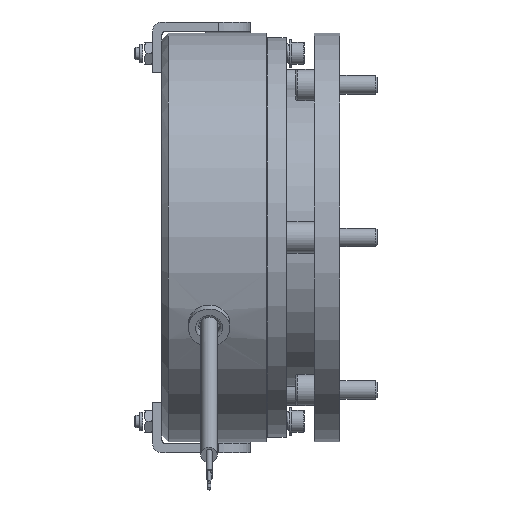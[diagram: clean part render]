
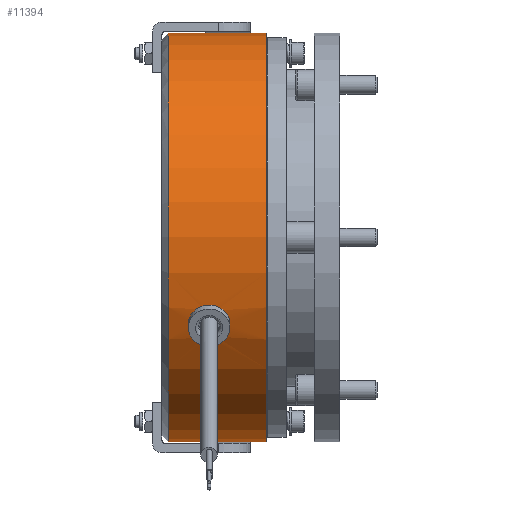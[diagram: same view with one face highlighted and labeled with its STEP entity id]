
A CAD part, front view. The second image highlights one B-rep face of the part: STEP entity #11394.
In plain terms, the highlighted cylindrical face has radius 65 mm (diameter 130 mm), a full revolution.
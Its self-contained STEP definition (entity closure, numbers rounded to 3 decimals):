
#298=B_SPLINE_CURVE_WITH_KNOTS('',3,(#18112,#18113,#18114,#18115,#18116,
#18117,#18118,#18119,#18120,#18121,#18122,#18123,#18124,#18125,#18126,#18127,
#18128,#18129,#18130),.UNSPECIFIED.,.F.,.F.,(4,2,2,2,3,2,2,2,4),(2.301,
2.493,2.685,2.877,3.068,3.26,
3.451,3.643,3.836),.UNSPECIFIED.);
#299=B_SPLINE_CURVE_WITH_KNOTS('',3,(#18132,#18133,#18134,#18135,#18136,
#18137,#18138,#18139,#18140,#18141,#18142,#18143,#18144,#18145,#18146,#18147,
#18148,#18149),.UNSPECIFIED.,.F.,.F.,(4,2,2,2,2,2,2,2,4),(0.767,
0.959,1.151,1.343,1.534,1.726,
1.918,2.109,2.301),.UNSPECIFIED.);
#697=CYLINDRICAL_SURFACE('',#12582,65.);
#814=FACE_BOUND('',#2651,.T.);
#1055=CIRCLE('',#11966,65.);
#1056=CIRCLE('',#11967,65.);
#1385=CIRCLE('',#12583,65.);
#1386=CIRCLE('',#12584,65.);
#1974=FACE_OUTER_BOUND('',#2650,.T.);
#2650=EDGE_LOOP('',(#9623,#9624,#9625,#9626,#9627,#9628));
#2651=EDGE_LOOP('',(#9629,#9630,#9631,#9632,#9633,#9634));
#3355=LINE('',#21517,#3937);
#3356=LINE('',#21521,#3938);
#3357=LINE('',#21522,#3939);
#3937=VECTOR('',#15374,65.);
#3938=VECTOR('',#15379,10.);
#3939=VECTOR('',#15380,10.);
#4495=VERTEX_POINT('',#17985);
#4496=VERTEX_POINT('',#17986);
#4515=VERTEX_POINT('',#18103);
#4516=VERTEX_POINT('',#18104);
#4517=VERTEX_POINT('',#18106);
#4518=VERTEX_POINT('',#18108);
#5025=VERTEX_POINT('',#21516);
#5026=VERTEX_POINT('',#21518);
#5817=EDGE_CURVE('',#4495,#4496,#1055,.T.);
#5818=EDGE_CURVE('',#4496,#4495,#1056,.T.);
#5843=EDGE_CURVE('',#4515,#4518,#298,.T.);
#5844=EDGE_CURVE('',#4518,#4515,#299,.T.);
#6595=EDGE_CURVE('',#4496,#5025,#3355,.T.);
#6596=EDGE_CURVE('',#5026,#5025,#1385,.T.);
#6597=EDGE_CURVE('',#5025,#5026,#1386,.T.);
#6598=EDGE_CURVE('',#4515,#4516,#3356,.T.);
#6599=EDGE_CURVE('',#4517,#4518,#3357,.T.);
#9623=ORIENTED_EDGE('',*,*,#5817,.F.);
#9624=ORIENTED_EDGE('',*,*,#5818,.F.);
#9625=ORIENTED_EDGE('',*,*,#6595,.T.);
#9626=ORIENTED_EDGE('',*,*,#6596,.F.);
#9627=ORIENTED_EDGE('',*,*,#6597,.F.);
#9628=ORIENTED_EDGE('',*,*,#6595,.F.);
#9629=ORIENTED_EDGE('',*,*,#6598,.T.);
#9630=ORIENTED_EDGE('',*,*,#6598,.F.);
#9631=ORIENTED_EDGE('',*,*,#5843,.T.);
#9632=ORIENTED_EDGE('',*,*,#6599,.F.);
#9633=ORIENTED_EDGE('',*,*,#6599,.T.);
#9634=ORIENTED_EDGE('',*,*,#5844,.T.);
#11394=ADVANCED_FACE('',(#1974,#814),#697,.T.);
#11966=AXIS2_PLACEMENT_3D('',#17987,#13896,#13897);
#11967=AXIS2_PLACEMENT_3D('',#17988,#13898,#13899);
#12582=AXIS2_PLACEMENT_3D('',#21515,#15372,#15373);
#12583=AXIS2_PLACEMENT_3D('',#21519,#15375,#15376);
#12584=AXIS2_PLACEMENT_3D('',#21520,#15377,#15378);
#13896=DIRECTION('center_axis',(1.,0.,0.));
#13897=DIRECTION('ref_axis',(0.,1.,0.));
#13898=DIRECTION('center_axis',(1.,0.,0.));
#13899=DIRECTION('ref_axis',(0.,1.,0.));
#15372=DIRECTION('center_axis',(1.,0.,0.));
#15373=DIRECTION('ref_axis',(0.,1.,0.));
#15374=DIRECTION('',(-1.,0.,0.));
#15375=DIRECTION('center_axis',(-1.,0.,0.));
#15376=DIRECTION('ref_axis',(0.,-1.,0.));
#15377=DIRECTION('center_axis',(-1.,0.,0.));
#15378=DIRECTION('ref_axis',(0.,-1.,0.));
#15379=DIRECTION('',(1.,0.,0.));
#15380=DIRECTION('',(1.,0.,0.));
#17985=CARTESIAN_POINT('',(0.,0.,-65.));
#17986=CARTESIAN_POINT('',(0.,-65.,0.));
#17987=CARTESIAN_POINT('Origin',(0.,0.,0.));
#17988=CARTESIAN_POINT('Origin',(0.,0.,0.));
#18103=CARTESIAN_POINT('',(-13.1,-58.91,-27.47));
#18104=CARTESIAN_POINT('',(-11.6,-58.91,-27.47));
#18106=CARTESIAN_POINT('',(-24.8,-58.91,-27.47));
#18108=CARTESIAN_POINT('',(-23.3,-58.91,-27.47));
#18112=CARTESIAN_POINT('Ctrl Pts',(-13.1,-58.91,-27.47));
#18113=CARTESIAN_POINT('Ctrl Pts',(-13.1,-58.64,-28.05));
#18114=CARTESIAN_POINT('Ctrl Pts',(-13.229,-58.342,
-28.663));
#18115=CARTESIAN_POINT('Ctrl Pts',(-13.751,-57.779,
-29.783));
#18116=CARTESIAN_POINT('Ctrl Pts',(-14.145,-57.513,
-30.289));
#18117=CARTESIAN_POINT('Ctrl Pts',(-15.052,-57.088,-31.084));
#18118=CARTESIAN_POINT('Ctrl Pts',(-15.625,-56.899,
-31.426));
#18119=CARTESIAN_POINT('Ctrl Pts',(-16.879,-56.647,
-31.878));
#18120=CARTESIAN_POINT('Ctrl Pts',(-17.561,-56.584,
-31.988));
#18121=CARTESIAN_POINT('Ctrl Pts',(-18.2,-56.584,-31.988));
#18122=CARTESIAN_POINT('Ctrl Pts',(-18.838,-56.584,
-31.988));
#18123=CARTESIAN_POINT('Ctrl Pts',(-19.519,-56.647,
-31.878));
#18124=CARTESIAN_POINT('Ctrl Pts',(-20.773,-56.898,
-31.427));
#18125=CARTESIAN_POINT('Ctrl Pts',(-21.346,-57.087,
-31.086));
#18126=CARTESIAN_POINT('Ctrl Pts',(-22.253,-57.512,
-30.292));
#18127=CARTESIAN_POINT('Ctrl Pts',(-22.647,-57.778,
-29.785));
#18128=CARTESIAN_POINT('Ctrl Pts',(-23.171,-58.342,
-28.665));
#18129=CARTESIAN_POINT('Ctrl Pts',(-23.3,-58.639,-28.05));
#18130=CARTESIAN_POINT('Ctrl Pts',(-23.3,-58.91,-27.47));
#18132=CARTESIAN_POINT('Ctrl Pts',(-23.3,-58.91,-27.47));
#18133=CARTESIAN_POINT('Ctrl Pts',(-23.3,-59.181,-26.89));
#18134=CARTESIAN_POINT('Ctrl Pts',(-23.171,-59.46,-26.267));
#18135=CARTESIAN_POINT('Ctrl Pts',(-22.647,-59.955,
-25.115));
#18136=CARTESIAN_POINT('Ctrl Pts',(-22.253,-60.173,
-24.586));
#18137=CARTESIAN_POINT('Ctrl Pts',(-21.346,-60.508,
-23.749));
#18138=CARTESIAN_POINT('Ctrl Pts',(-20.773,-60.648,
-23.386));
#18139=CARTESIAN_POINT('Ctrl Pts',(-19.519,-60.832,
-22.903));
#18140=CARTESIAN_POINT('Ctrl Pts',(-18.838,-60.876,
-22.784));
#18141=CARTESIAN_POINT('Ctrl Pts',(-17.561,-60.876,
-22.784));
#18142=CARTESIAN_POINT('Ctrl Pts',(-16.879,-60.832,-22.903));
#18143=CARTESIAN_POINT('Ctrl Pts',(-15.625,-60.647,
-23.387));
#18144=CARTESIAN_POINT('Ctrl Pts',(-15.052,-60.507,-23.751));
#18145=CARTESIAN_POINT('Ctrl Pts',(-14.145,-60.172,
-24.588));
#18146=CARTESIAN_POINT('Ctrl Pts',(-13.751,-59.954,
-25.117));
#18147=CARTESIAN_POINT('Ctrl Pts',(-13.229,-59.459,-26.268));
#18148=CARTESIAN_POINT('Ctrl Pts',(-13.1,-59.18,-26.891));
#18149=CARTESIAN_POINT('Ctrl Pts',(-13.1,-58.91,-27.47));
#21515=CARTESIAN_POINT('Origin',(-16.6,0.,0.));
#21516=CARTESIAN_POINT('',(-31.2,-65.,0.));
#21517=CARTESIAN_POINT('',(-16.6,-65.,0.));
#21518=CARTESIAN_POINT('',(-31.2,65.,0.));
#21519=CARTESIAN_POINT('Origin',(-31.2,0.,0.));
#21520=CARTESIAN_POINT('Origin',(-31.2,0.,0.));
#21521=CARTESIAN_POINT('',(-25.,-58.91,-27.47));
#21522=CARTESIAN_POINT('',(-16.6,-58.91,-27.47));
